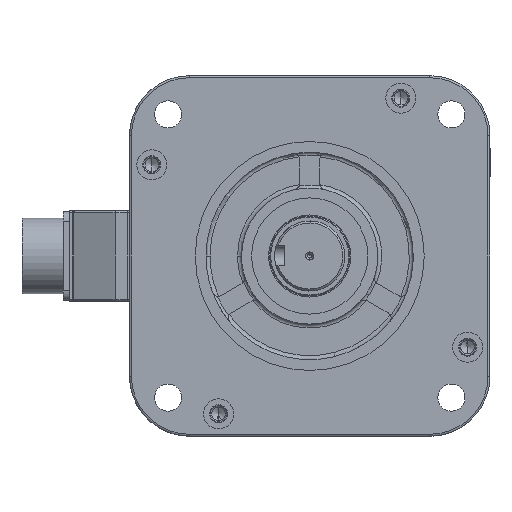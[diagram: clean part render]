
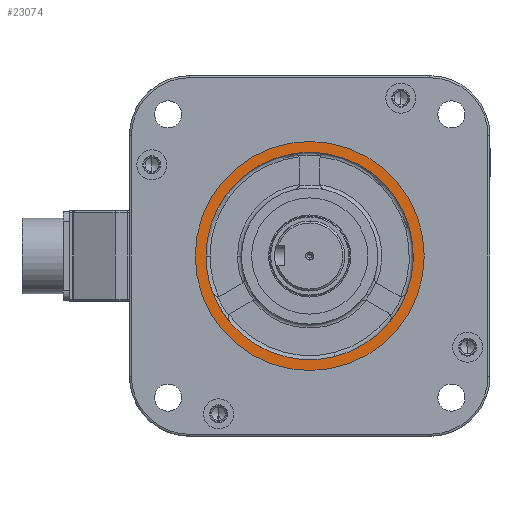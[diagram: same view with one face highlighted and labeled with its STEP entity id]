
A CAD part, left-side view. The second image highlights one B-rep face of the part: STEP entity #23074.
In plain terms, the highlighted planar face has unit normal (-1, 0, 0) as drawn and (0, 0, 1) by its records, which use the part's own axes.
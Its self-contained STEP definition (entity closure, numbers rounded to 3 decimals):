
#1552 = CIRCLE ( 'NONE', #34692, 51.75 ) ;
#2000 = EDGE_CURVE ( 'NONE', #46602, #2186, #23503, .T. ) ;
#2186 = VERTEX_POINT ( 'NONE', #38283 ) ;
#2356 = ORIENTED_EDGE ( 'NONE', *, *, #44194, .T. ) ;
#4993 = AXIS2_PLACEMENT_3D ( 'NONE', #7545, #53096, #6364 ) ;
#6364 = DIRECTION ( 'NONE',  ( 1., 0., 0. ) ) ;
#7091 = VERTEX_POINT ( 'NONE', #14315 ) ;
#7178 = EDGE_CURVE ( 'NONE', #55424, #44038, #41420, .T. ) ;
#7545 = CARTESIAN_POINT ( 'NONE',  ( 0., 0., 21. ) ) ;
#8724 = CARTESIAN_POINT ( 'NONE',  ( 51.75, 0., 21. ) ) ;
#9909 = ORIENTED_EDGE ( 'NONE', *, *, #59430, .F. ) ;
#10103 = CIRCLE ( 'NONE', #39375, 51.75 ) ;
#10957 = DIRECTION ( 'NONE',  ( 0., 0., 1. ) ) ;
#11059 = EDGE_CURVE ( 'NONE', #7091, #60271, #10103, .T. ) ;
#12409 = DIRECTION ( 'NONE',  ( 1., 0., 0. ) ) ;
#12859 = DIRECTION ( 'NONE',  ( 1., 0., 0. ) ) ;
#14315 = CARTESIAN_POINT ( 'NONE',  ( 48.455, 18.17, 21. ) ) ;
#15230 = CARTESIAN_POINT ( 'NONE',  ( 0., 0., 21. ) ) ;
#15785 = VERTEX_POINT ( 'NONE', #34384 ) ;
#15829 = FACE_BOUND ( 'NONE', #50654, .T. ) ;
#16510 = DIRECTION ( 'NONE',  ( 0., 0., 1. ) ) ;
#16740 = AXIS2_PLACEMENT_3D ( 'NONE', #58380, #21088, #12859 ) ;
#18508 = ORIENTED_EDGE ( 'NONE', *, *, #11059, .F. ) ;
#20691 = FACE_OUTER_BOUND ( 'NONE', #21826, .T. ) ;
#21088 = DIRECTION ( 'NONE',  ( 0., 0., 1. ) ) ;
#21542 = CARTESIAN_POINT ( 'NONE',  ( 0., 0., 21. ) ) ;
#21603 = CIRCLE ( 'NONE', #16740, 51.75 ) ;
#21826 = EDGE_LOOP ( 'NONE', ( #2356, #30520 ) ) ;
#22055 = AXIS2_PLACEMENT_3D ( 'NONE', #31556, #34430, #26364 ) ;
#22187 = CARTESIAN_POINT ( 'NONE',  ( 0., 0., 21. ) ) ;
#22271 = DIRECTION ( 'NONE',  ( 1., 0., 0. ) ) ;
#22712 = EDGE_CURVE ( 'NONE', #32729, #15785, #40220, .T. ) ;
#23074 = ADVANCED_FACE ( 'NONE', ( #15829, #20691 ), #53997, .T. ) ;
#23503 = CIRCLE ( 'NONE', #30335, 51.75 ) ;
#23598 = CIRCLE ( 'NONE', #25529, 51.75 ) ;
#24670 = CARTESIAN_POINT ( 'NONE',  ( 0., 0., 21. ) ) ;
#25529 = AXIS2_PLACEMENT_3D ( 'NONE', #22187, #54006, #39936 ) ;
#25737 = VERTEX_POINT ( 'NONE', #8724 ) ;
#26364 = DIRECTION ( 'NONE',  ( 1., 0., 0. ) ) ;
#27891 = EDGE_CURVE ( 'NONE', #25737, #7091, #23598, .T. ) ;
#30089 = CIRCLE ( 'NONE', #58424, 57.15 ) ;
#30335 = AXIS2_PLACEMENT_3D ( 'NONE', #37058, #45921, #32152 ) ;
#30520 = ORIENTED_EDGE ( 'NONE', *, *, #22712, .T. ) ;
#30907 = ORIENTED_EDGE ( 'NONE', *, *, #7178, .F. ) ;
#31425 = DIRECTION ( 'NONE',  ( 1., 0., 0. ) ) ;
#31556 = CARTESIAN_POINT ( 'NONE',  ( 0., 0., 21. ) ) ;
#31927 = CARTESIAN_POINT ( 'NONE',  ( 57.15, 0., 21. ) ) ;
#32152 = DIRECTION ( 'NONE',  ( 1., 0., 0. ) ) ;
#32729 = VERTEX_POINT ( 'NONE', #31927 ) ;
#34266 = EDGE_CURVE ( 'NONE', #2186, #25737, #37692, .T. ) ;
#34384 = CARTESIAN_POINT ( 'NONE',  ( -57.15, 0., 21. ) ) ;
#34430 = DIRECTION ( 'NONE',  ( 0., 0., 1. ) ) ;
#34692 = AXIS2_PLACEMENT_3D ( 'NONE', #15230, #10957, #53411 ) ;
#37058 = CARTESIAN_POINT ( 'NONE',  ( 0., 0., 21. ) ) ;
#37303 = AXIS2_PLACEMENT_3D ( 'NONE', #45781, #54967, #31425 ) ;
#37692 = CIRCLE ( 'NONE', #22055, 51.75 ) ;
#38283 = CARTESIAN_POINT ( 'NONE',  ( 8.492, -51.048, 21. ) ) ;
#38453 = CARTESIAN_POINT ( 'NONE',  ( 39.963, 32.879, 21. ) ) ;
#39375 = AXIS2_PLACEMENT_3D ( 'NONE', #21542, #54264, #12409 ) ;
#39936 = DIRECTION ( 'NONE',  ( 1., 0., 0. ) ) ;
#40220 = CIRCLE ( 'NONE', #37303, 57.15 ) ;
#41420 = CIRCLE ( 'NONE', #52161, 51.75 ) ;
#43325 = DIRECTION ( 'NONE',  ( 1., 0., 0. ) ) ;
#44038 = VERTEX_POINT ( 'NONE', #52587 ) ;
#44194 = EDGE_CURVE ( 'NONE', #15785, #32729, #30089, .T. ) ;
#45781 = CARTESIAN_POINT ( 'NONE',  ( 0., 0., 21. ) ) ;
#45921 = DIRECTION ( 'NONE',  ( 0., 0., 1. ) ) ;
#46602 = VERTEX_POINT ( 'NONE', #52915 ) ;
#48205 = DIRECTION ( 'NONE',  ( 0., 0., 1. ) ) ;
#48888 = ORIENTED_EDGE ( 'NONE', *, *, #58809, .F. ) ;
#50394 = CARTESIAN_POINT ( 'NONE',  ( 0., 0., 21. ) ) ;
#50654 = EDGE_LOOP ( 'NONE', ( #18508, #57928, #52084, #55412, #48888, #30907, #9909 ) ) ;
#52084 = ORIENTED_EDGE ( 'NONE', *, *, #34266, .F. ) ;
#52161 = AXIS2_PLACEMENT_3D ( 'NONE', #24670, #48205, #43325 ) ;
#52587 = CARTESIAN_POINT ( 'NONE',  ( -48.455, 18.17, 21. ) ) ;
#52915 = CARTESIAN_POINT ( 'NONE',  ( -8.492, -51.048, 21. ) ) ;
#53096 = DIRECTION ( 'NONE',  ( 0., 0., 1. ) ) ;
#53411 = DIRECTION ( 'NONE',  ( 1., 0., 0. ) ) ;
#53997 = PLANE ( 'NONE',  #4993 ) ;
#54006 = DIRECTION ( 'NONE',  ( 0., 0., 1. ) ) ;
#54264 = DIRECTION ( 'NONE',  ( 0., 0., 1. ) ) ;
#54967 = DIRECTION ( 'NONE',  ( 0., 0., 1. ) ) ;
#55412 = ORIENTED_EDGE ( 'NONE', *, *, #2000, .F. ) ;
#55424 = VERTEX_POINT ( 'NONE', #56412 ) ;
#56412 = CARTESIAN_POINT ( 'NONE',  ( -39.963, 32.879, 21. ) ) ;
#57928 = ORIENTED_EDGE ( 'NONE', *, *, #27891, .F. ) ;
#58380 = CARTESIAN_POINT ( 'NONE',  ( 0., 0., 21. ) ) ;
#58424 = AXIS2_PLACEMENT_3D ( 'NONE', #50394, #16510, #22271 ) ;
#58809 = EDGE_CURVE ( 'NONE', #44038, #46602, #21603, .T. ) ;
#59430 = EDGE_CURVE ( 'NONE', #60271, #55424, #1552, .T. ) ;
#60271 = VERTEX_POINT ( 'NONE', #38453 ) ;
